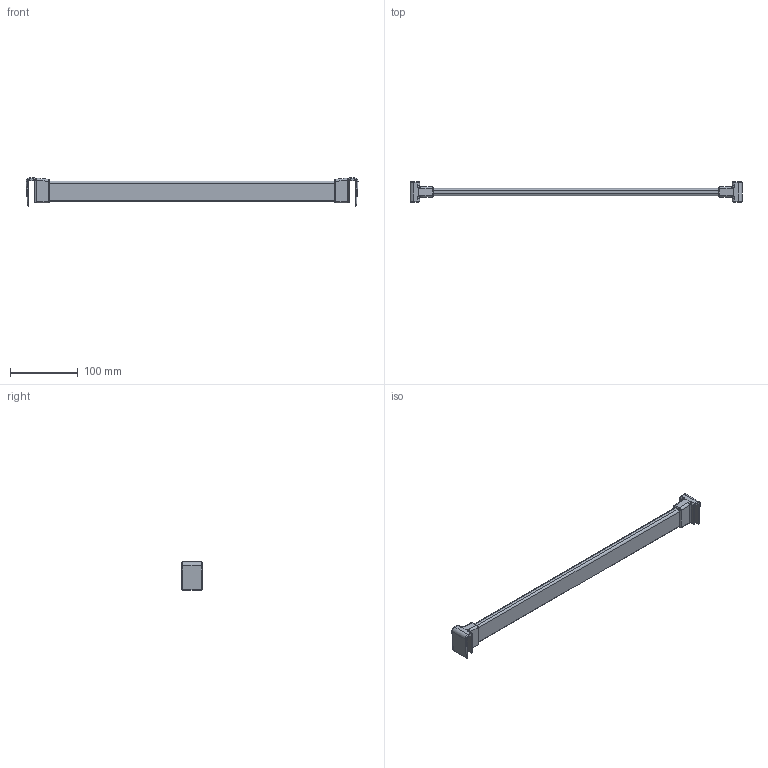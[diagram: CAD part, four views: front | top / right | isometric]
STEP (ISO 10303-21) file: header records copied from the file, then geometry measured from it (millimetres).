
FILE_DESCRIPTION (( 'STEP AP214' ), '1' );
FILE_NAME ('_Querreling_KAB-550_KS-16_P602_Glashalter.step', '2010-08-26T14:59:30', ( 'grass' ), ( '' ), 'SwSTEP 2.0', 'SolidWorks 2009', '' );
FILE_SCHEMA (( 'AUTOMOTIVE_DESIGN' ));
Length unit declared in the file: millimetre
Products named in the file (1): _Querreling_KAB-550_KS-16_P602_Glashalter
Bounding box: 490.78 x 30 x 41.5 mm (x, y, z)
Volume: 165560.3 mm3; surface area: 46601 mm2
Topology: 1 solids, 1 shells, 124 faces, 300 edges, 176 vertices
Faces by surface type: cylinder 58, plane 34, torus 16, bspline 12, sphere 4
Entity records: 5090 total; most frequent: CARTESIAN_POINT 2269, ORIENTED_EDGE 592, DIRECTION 590, EDGE_CURVE 296, AXIS2_PLACEMENT_3D 225, VERTEX_POINT 176, LINE 140, VECTOR 140
